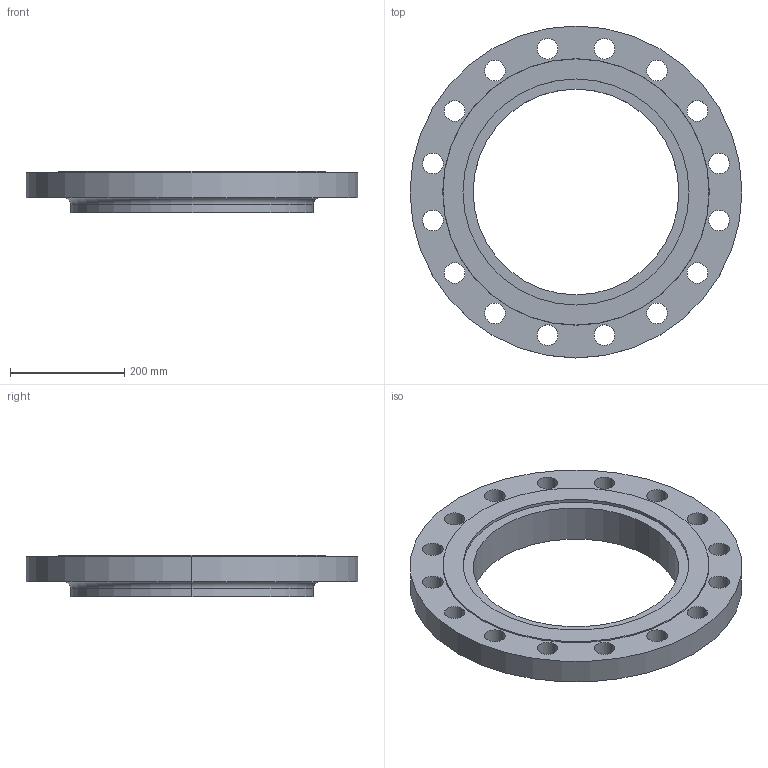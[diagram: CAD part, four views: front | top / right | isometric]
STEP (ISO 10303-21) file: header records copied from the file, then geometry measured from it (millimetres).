
FILE_DESCRIPTION (( 'STEP AP214' ), '1' );
FILE_NAME ('PN40 DN350 Type 12 - Type G Face.STEP', '2019-01-05T21:50:29', ( '' ), ( '' ), 'SwSTEP 2.0', 'SolidWorks 2019', '' );
FILE_SCHEMA (( 'AUTOMOTIVE_DESIGN' ));
Length unit declared in the file: millimetre
Products named in the file (1): PN40 DN350 Type 12 - Type G Face
Bounding box: 580 x 580 x 72 mm (x, y, z)
Volume: 7537433 mm3; surface area: 564847.9 mm2
Topology: 1 solids, 1 shells, 49 faces, 130 edges, 86 vertices
Faces by surface type: cylinder 40, plane 5, torus 2, cone 2
Entity records: 1678 total; most frequent: DIRECTION 318, CARTESIAN_POINT 266, ORIENTED_EDGE 260, AXIS2_PLACEMENT_3D 138, EDGE_CURVE 130, CIRCLE 88, VERTEX_POINT 86, EDGE_LOOP 86
